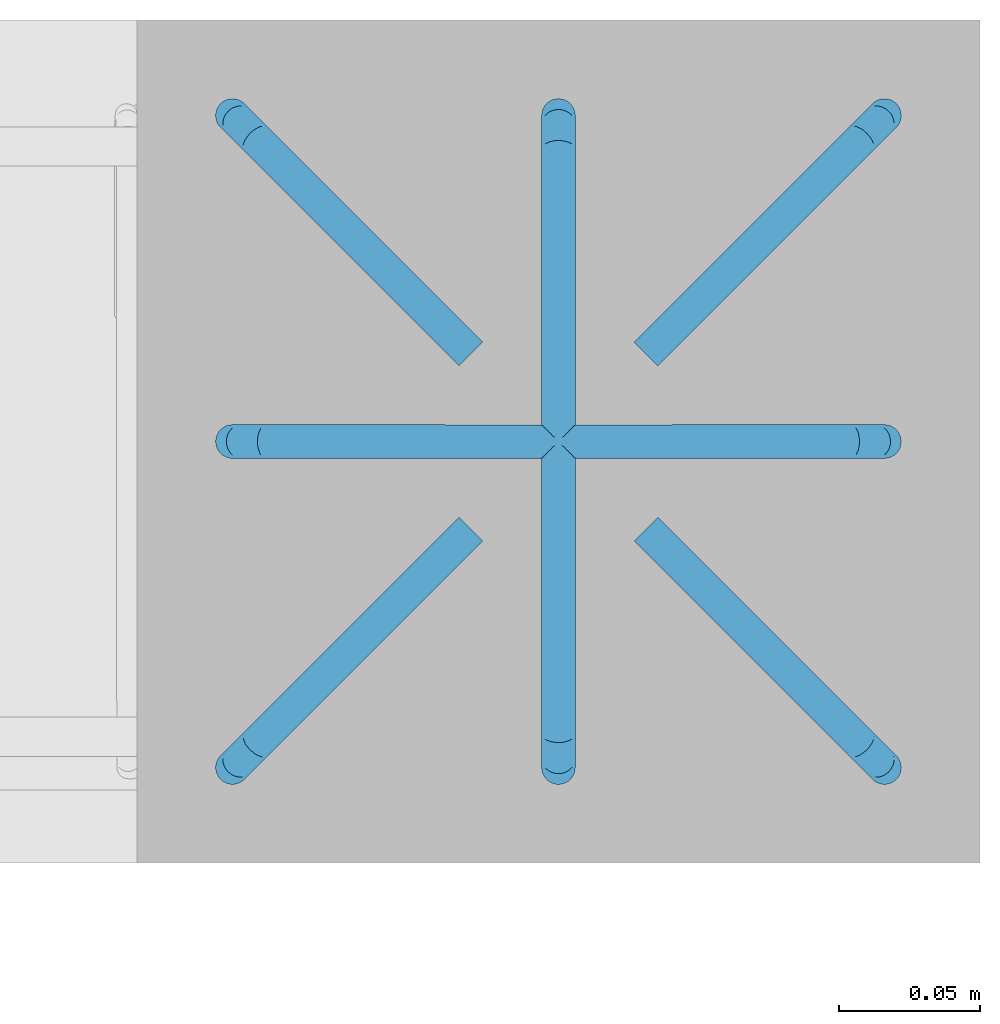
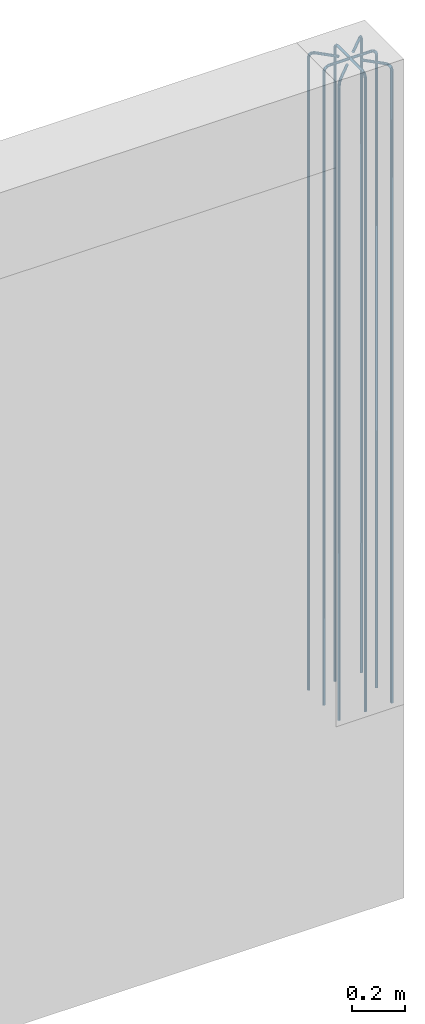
# One storey, part 11 of 11: 1 reinforcing bar.
"""IFC2X3 building model written with IfcOpenShell, lengths in metres."""

from ifc_helpers import new_model, entity, si_unit, direction, frame, origin, place, context, subcontext, project, spatial, shape, source, transform, mapped, element, save


model = new_model("IFC2X3")

# Units and contexts
model_context = context("Model", 3, precision=0.0, world=origin(), true_north=direction((0.0, 1.0)))
plan_context = context("Plan", 3, precision=0.0, world=origin(), true_north=direction((0.0, 1.0)))
body_context = subcontext(model_context, "Body", "Model", "MODEL_VIEW", scale=1.0)
ifc_project = project(units=[si_unit("LENGTHUNIT", "METRE"), si_unit("AREAUNIT", "SQUARE_METRE"), si_unit("VOLUMEUNIT", "CUBIC_METRE"), si_unit("PLANEANGLEUNIT", "RADIAN"), si_unit("THERMODYNAMICTEMPERATUREUNIT", "DEGREE_CELSIUS"), si_unit("FORCEUNIT", "NEWTON"), si_unit("MASSUNIT", "GRAM", prefix="KILO")], contexts=[model_context, plan_context])

# Site, building, storey
placement = place(None, origin())
site = spatial("IfcSite", under=ifc_project, at=placement, Name="Default Site", CompositionType="ELEMENT")
building = spatial("IfcBuilding", under=site, at=placement, Name="Default Building", CompositionType="ELEMENT")
storey_placement = place(placement, frame((0.0, 0.0, 3.0), z_axis=(1.0, 0.0, 0.0), x_axis=(0.0, 0.0, 1.0)))
storey = spatial("IfcBuildingStorey", under=building, at=storey_placement, Name="Piano 1", CompositionType="ELEMENT", Elevation=3.0)

# Reinforcing bar
shared_shape_1 = source(origin(), body_context, None, "AdvancedSweptSolid", [
    entity("IfcSweptDiskSolid", entity("IfcCompositeCurve", [entity("IfcCompositeCurveSegment", "CONTINUOUS", True, entity("IfcPolyline", [entity("IfcCartesianPoint", [0.0, 0.0, 0.0]), entity("IfcCartesianPoint", [0.0, 0.0, 2.942]), entity("IfcCartesianPoint", [0.002274, 0.002274, 2.954]), entity("IfcCartesianPoint", [0.008485, 0.008485, 2.962785]), entity("IfcCartesianPoint", [0.016971, 0.016971, 2.966]), entity("IfcCartesianPoint", [0.084853, 0.084853, 2.966])]))], False), 0.006, 0.0, 0.0),
])
shared_shape_2 = source(origin(), body_context, None, "MappedRepresentation", [mapped(shared_shape_1, transform((36.384, 2.884, 0.0)))])
shared_shape_3 = source(origin(), body_context, None, "AdvancedSweptSolid", [
    entity("IfcSweptDiskSolid", entity("IfcCompositeCurve", [entity("IfcCompositeCurveSegment", "CONTINUOUS", True, entity("IfcPolyline", [entity("IfcCartesianPoint", [0.0, 0.0, 0.0]), entity("IfcCartesianPoint", [0.0, 0.0, 2.942]), entity("IfcCartesianPoint", [-0.002274, 0.002274, 2.954]), entity("IfcCartesianPoint", [-0.008485, 0.008485, 2.962785]), entity("IfcCartesianPoint", [-0.016971, 0.016971, 2.966]), entity("IfcCartesianPoint", [-0.084853, 0.084853, 2.966])]))], False), 0.006, 0.0, 0.0),
])
shared_shape_4 = source(origin(), body_context, None, "MappedRepresentation", [mapped(shared_shape_3, transform((36.616, 2.884, 0.0)))])
shared_shape_5 = source(origin(), body_context, None, "AdvancedSweptSolid", [
    entity("IfcSweptDiskSolid", entity("IfcCompositeCurve", [entity("IfcCompositeCurveSegment", "CONTINUOUS", True, entity("IfcPolyline", [entity("IfcCartesianPoint", [0.0, 0.0, 0.0]), entity("IfcCartesianPoint", [0.0, 0.0, 2.942]), entity("IfcCartesianPoint", [-0.002274, -0.002274, 2.954]), entity("IfcCartesianPoint", [-0.008485, -0.008485, 2.962785]), entity("IfcCartesianPoint", [-0.016971, -0.016971, 2.966]), entity("IfcCartesianPoint", [-0.084853, -0.084853, 2.966])]))], False), 0.006, 0.0, 0.0),
])
shared_shape_6 = source(origin(), body_context, None, "MappedRepresentation", [mapped(shared_shape_5, transform((36.616, 3.116, 0.0)))])
shared_shape_7 = source(origin(), body_context, None, "AdvancedSweptSolid", [
    entity("IfcSweptDiskSolid", entity("IfcCompositeCurve", [entity("IfcCompositeCurveSegment", "CONTINUOUS", True, entity("IfcPolyline", [entity("IfcCartesianPoint", [0.0, 0.0, 0.0]), entity("IfcCartesianPoint", [0.0, 0.0, 2.942]), entity("IfcCartesianPoint", [0.002274, -0.002274, 2.954]), entity("IfcCartesianPoint", [0.008485, -0.008485, 2.962785]), entity("IfcCartesianPoint", [0.016971, -0.016971, 2.966]), entity("IfcCartesianPoint", [0.084853, -0.084853, 2.966])]))], False), 0.006, 0.0, 0.0),
])
shared_shape_8 = source(origin(), body_context, None, "MappedRepresentation", [mapped(shared_shape_7, transform((36.384, 3.116, 0.0)))])
shared_shape_9 = source(origin(), body_context, None, "AdvancedSweptSolid", [
    entity("IfcSweptDiskSolid", entity("IfcCompositeCurve", [entity("IfcCompositeCurveSegment", "CONTINUOUS", True, entity("IfcPolyline", [entity("IfcCartesianPoint", [0.0, 0.0, 0.0]), entity("IfcCartesianPoint", [0.0, 0.0, 2.942]), entity("IfcCartesianPoint", [0.0, 0.003215, 2.954]), entity("IfcCartesianPoint", [0.0, 0.012, 2.962785]), entity("IfcCartesianPoint", [0.0, 0.024, 2.966]), entity("IfcCartesianPoint", [0.0, 0.12, 2.966])]))], False), 0.006, 0.0, 0.0),
])
shared_shape_10 = source(origin(), body_context, None, "MappedRepresentation", [mapped(shared_shape_9, transform((36.5, 2.884, 0.0)))])
shared_shape_11 = source(origin(), body_context, None, "AdvancedSweptSolid", [
    entity("IfcSweptDiskSolid", entity("IfcCompositeCurve", [entity("IfcCompositeCurveSegment", "CONTINUOUS", True, entity("IfcPolyline", [entity("IfcCartesianPoint", [0.0, 0.0, 0.0]), entity("IfcCartesianPoint", [0.0, 0.0, 2.942]), entity("IfcCartesianPoint", [-0.003215, 0.0, 2.954]), entity("IfcCartesianPoint", [-0.012, 0.0, 2.962785]), entity("IfcCartesianPoint", [-0.024, 0.0, 2.966]), entity("IfcCartesianPoint", [-0.12, 0.0, 2.966])]))], False), 0.006, 0.0, 0.0),
])
shared_shape_12 = source(origin(), body_context, None, "MappedRepresentation", [mapped(shared_shape_11, transform((36.616, 3.0, 0.0)))])
shared_shape_13 = source(origin(), body_context, None, "AdvancedSweptSolid", [
    entity("IfcSweptDiskSolid", entity("IfcCompositeCurve", [entity("IfcCompositeCurveSegment", "CONTINUOUS", True, entity("IfcPolyline", [entity("IfcCartesianPoint", [0.0, 0.0, 0.0]), entity("IfcCartesianPoint", [0.0, 0.0, 2.942]), entity("IfcCartesianPoint", [0.0, -0.003215, 2.954]), entity("IfcCartesianPoint", [0.0, -0.012, 2.962785]), entity("IfcCartesianPoint", [0.0, -0.024, 2.966]), entity("IfcCartesianPoint", [0.0, -0.12, 2.966])]))], False), 0.006, 0.0, 0.0),
])
shared_shape_14 = source(origin(), body_context, None, "MappedRepresentation", [mapped(shared_shape_13, transform((36.5, 3.116, 0.0)))])
shared_shape_15 = source(origin(), body_context, None, "AdvancedSweptSolid", [
    entity("IfcSweptDiskSolid", entity("IfcCompositeCurve", [entity("IfcCompositeCurveSegment", "CONTINUOUS", True, entity("IfcPolyline", [entity("IfcCartesianPoint", [0.0, 0.0, 0.0]), entity("IfcCartesianPoint", [0.0, 0.0, 2.942]), entity("IfcCartesianPoint", [0.003215, 0.0, 2.954]), entity("IfcCartesianPoint", [0.012, 0.0, 2.962785]), entity("IfcCartesianPoint", [0.024, 0.0, 2.966]), entity("IfcCartesianPoint", [0.12, 0.0, 2.966])]))], False), 0.006, 0.0, 0.0),
])
shared_shape_16 = source(origin(), body_context, None, "MappedRepresentation", [mapped(shared_shape_15, transform((36.384, 3.0, 0.0)))])
element("IfcReinforcingBar", 1, at=placement, inside=storey, Name="Arm Principale; Pilastro:31 [Piano:1]", BarLength=24.688, BarRole="MAIN", BarSurface="TEXTURED", NominalDiameter=0.012, shapes=[
    shape(body_context, None, "MappedRepresentation", [mapped(shared_shape_2, transform((0.0, 0.0, 0.0))), mapped(shared_shape_4, transform((0.0, 0.0, 0.0))), mapped(shared_shape_6, transform((0.0, 0.0, 0.0))), mapped(shared_shape_8, transform((0.0, 0.0, 0.0))), mapped(shared_shape_10, transform((0.0, 0.0, 0.0))), mapped(shared_shape_12, transform((0.0, 0.0, 0.0))), mapped(shared_shape_14, transform((0.0, 0.0, 0.0))), mapped(shared_shape_16, transform((0.0, 0.0, 0.0)))]),
])

save(model, "model.ifc")
